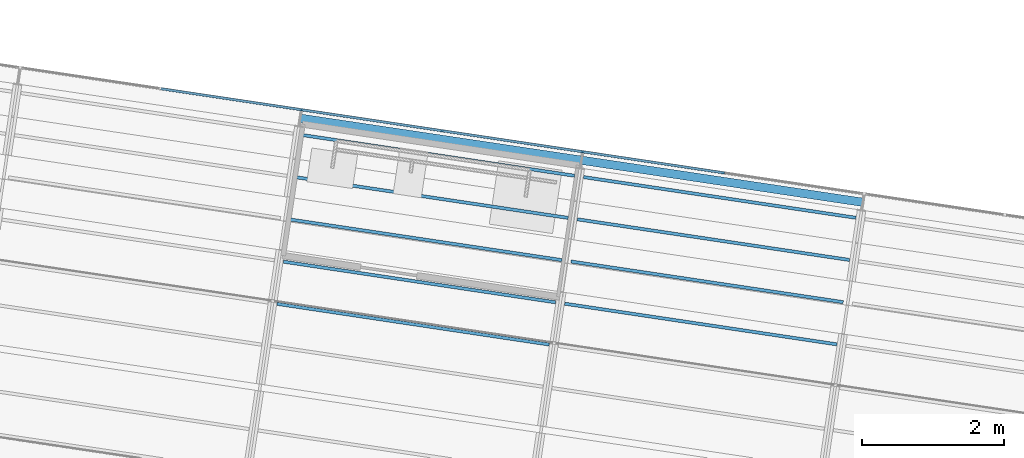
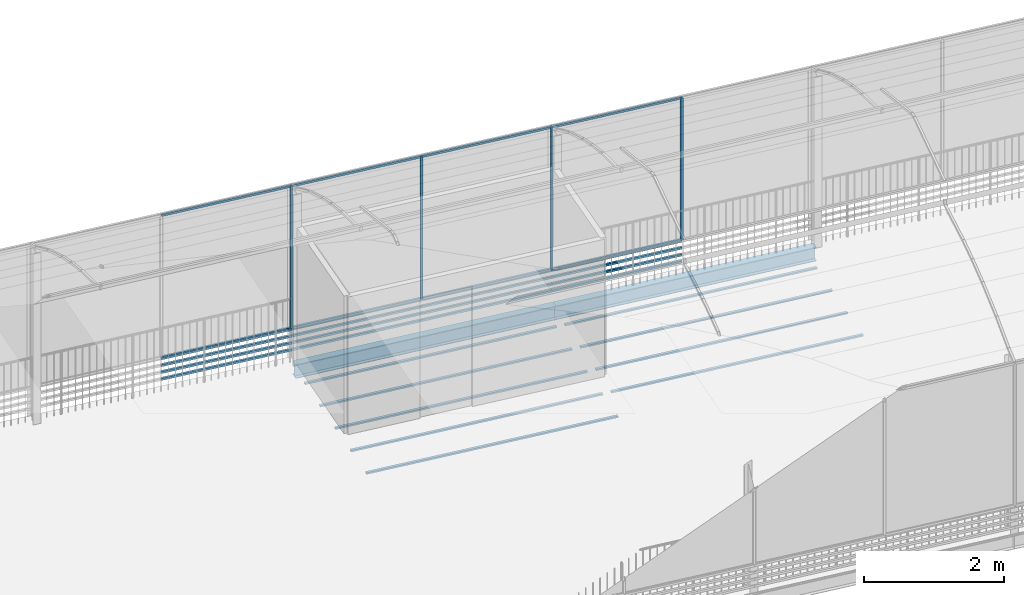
# One storey, part 9 of 34: 32 members, 11 beams.
"""IFC4 building model written with IfcOpenShell, lengths in metres."""

from ifc_helpers import new_model, si_unit, direction, frame, origin_with_axes, place, context, subcontext, project, spatial, polyline, rectangle, i_section, outline, extrude, material, material_profile, profile_set, profile_usage, type_object, element, save


model = new_model("IFC4")

# Units and contexts
model_context = context("Model", 3, precision=1e-05, world=origin_with_axes(), true_north=direction((0.0, 1.0)))
body_context = subcontext(model_context, "Body", "Model", "MODEL_VIEW")
ifc_project = project(units=[si_unit("VOLUMEUNIT", "CUBIC_METRE"), si_unit("LENGTHUNIT", "METRE"), si_unit("AREAUNIT", "SQUARE_METRE")], contexts=[model_context])

# Site, building, storey
site_placement = place(None, origin_with_axes())
site = spatial("IfcSite", under=ifc_project, at=site_placement, Name="Lares · Rua das Mercês · artigo 4771")
building_placement = place(site_placement, frame((12.0, 10.2, 13.9), z_axis=(0.0, 0.0, 1.0), x_axis=(0.989015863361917, -0.147809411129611, 0.0)))
building = spatial("IfcBuilding", under=site, at=building_placement, Name="Casa Sobreposta")
storey_placement = place(building_placement, frame((0.0, 0.0, 3.24), z_axis=(0.0, 0.0, 1.0), x_axis=(1.0, 0.0, 0.0)))
storey = spatial("IfcBuildingStorey", under=building, at=storey_placement, Name="01 · Jardim de inverno", Elevation=17.14)

# Beams
ifc_material_1 = material(Name="Aço pintado / Stahl lackiert", Category="steel")
ifc_material_profile_1 = material_profile(ifc_material_1, i_section(OverallWidth=0.12, OverallDepth=0.24, WebThickness=0.0062, FlangeThickness=0.0098))
ifc_profile_set_1 = profile_set([ifc_material_profile_1], Name="IPE240")
ifc_profile_usage_1 = profile_usage(ifc_profile_set_1)
beam_type = type_object("IfcBeamType", Name="IPE240 / steel", PredefinedType="NOTDEFINED", material=ifc_profile_set_1)
beam_1_placement = place(storey_placement, frame((8.0, 6.28, -0.152), z_axis=(1.0, 0.0, 0.0), x_axis=(0.0, -1.0, 0.0)))
element("IfcBeam", 1, at=beam_1_placement, inside=storey, type_object=beam_type, material=ifc_profile_usage_1, Name="Viga longitudinal 8 / 6.28", context=body_context, shape_type="SweptSolid", body=[
    extrude(i_section(OverallWidth=0.12, OverallDepth=0.24, WebThickness=0.0062, FlangeThickness=0.0098), origin_with_axes(), (0.0, 0.0, 1.0), 4.0),
])
ifc_profile_usage_2 = profile_usage(ifc_profile_set_1)
beam_2_placement = place(storey_placement, frame((12.0, 6.28, -0.152), z_axis=(1.0, 0.0, 0.0), x_axis=(0.0, -1.0, 0.0)))
element("IfcBeam", 2, at=beam_2_placement, inside=storey, type_object=beam_type, material=ifc_profile_usage_2, Name="Viga longitudinal 12 / 6.28", context=body_context, shape_type="SweptSolid", body=[
    extrude(i_section(OverallWidth=0.12, OverallDepth=0.24, WebThickness=0.0062, FlangeThickness=0.0098), origin_with_axes(), (0.0, 0.0, 1.0), 4.0),
])

# Members
ifc_material_profile_2 = material_profile(ifc_material_1, rectangle(XDim=0.035, YDim=0.035))
ifc_profile_set_2 = profile_set([ifc_material_profile_2], Name="R0.035")
ifc_profile_usage_3 = profile_usage(ifc_profile_set_2)
member_type = type_object("IfcMemberType", Name="R0.035 / steel", PredefinedType="NOTDEFINED", material=ifc_profile_set_2)
member_1_placement = place(storey_placement, frame((8.0, 6.4, 0.5), z_axis=(0.0, 0.0, 1.0), x_axis=(1.0, 0.0, 0.0)))
element("IfcMember", 3, at=member_1_placement, inside=storey, type_object=member_type, material=ifc_profile_usage_3, context=body_context, shape_type="SweptSolid", body=[
    extrude(rectangle(XDim=0.035, YDim=0.035), origin_with_axes(), (0.0, 0.0, 1.0), 2.48),
])
ifc_profile_usage_4 = profile_usage(ifc_profile_set_2)
member_2_placement = place(storey_placement, frame((6.0, 6.4, 0.5), z_axis=(1.0, 0.0, 0.0), x_axis=(0.0, -1.0, 0.0)))
element("IfcMember", 4, at=member_2_placement, inside=storey, type_object=member_type, material=ifc_profile_usage_4, Name="Estufa norte 4 · travessa", context=body_context, shape_type="SweptSolid", body=[
    extrude(rectangle(XDim=0.035, YDim=0.035), origin_with_axes(), (0.0, 0.0, 1.0), 2.0),
])
ifc_profile_usage_5 = profile_usage(ifc_profile_set_2)
member_3_placement = place(storey_placement, frame((6.0, 6.4, 2.98), z_axis=(1.0, 0.0, 0.0), x_axis=(0.0, -1.0, 0.0)))
element("IfcMember", 5, at=member_3_placement, inside=storey, type_object=member_type, material=ifc_profile_usage_5, Name="Estufa norte 4 · travessa", context=body_context, shape_type="SweptSolid", body=[
    extrude(rectangle(XDim=0.035, YDim=0.035), origin_with_axes(), (0.0, 0.0, 1.0), 2.0),
])
ifc_profile_usage_6 = profile_usage(ifc_profile_set_2)
member_4_placement = place(storey_placement, frame((6.0, 6.4, 0.12), z_axis=(1.0, 0.0, 0.0), x_axis=(0.0, -1.0, 0.0)))
element("IfcMember", 6, at=member_4_placement, inside=storey, type_object=member_type, material=ifc_profile_usage_6, Name="Entrada de ar norte 4", context=body_context, shape_type="SweptSolid", body=[
    extrude(rectangle(XDim=0.035, YDim=0.035), origin_with_axes(), (0.0, 0.0, 1.0), 2.0),
])
ifc_profile_usage_7 = profile_usage(ifc_profile_set_2)
member_5_placement = place(storey_placement, frame((6.0, 6.4, 0.24), z_axis=(1.0, 0.0, 0.0), x_axis=(0.0, -1.0, 0.0)))
element("IfcMember", 7, at=member_5_placement, inside=storey, type_object=member_type, material=ifc_profile_usage_7, Name="Entrada de ar norte 4", context=body_context, shape_type="SweptSolid", body=[
    extrude(rectangle(XDim=0.035, YDim=0.035), origin_with_axes(), (0.0, 0.0, 1.0), 2.0),
])
ifc_profile_usage_8 = profile_usage(ifc_profile_set_2)
member_6_placement = place(storey_placement, frame((6.0, 6.4, 0.36), z_axis=(1.0, 0.0, 0.0), x_axis=(0.0, -1.0, 0.0)))
element("IfcMember", 8, at=member_6_placement, inside=storey, type_object=member_type, material=ifc_profile_usage_8, Name="Entrada de ar norte 4", context=body_context, shape_type="SweptSolid", body=[
    extrude(rectangle(XDim=0.035, YDim=0.035), origin_with_axes(), (0.0, 0.0, 1.0), 2.0),
])
ifc_profile_usage_9 = profile_usage(ifc_profile_set_2)
member_7_placement = place(storey_placement, frame((6.0, 6.4, 0.48), z_axis=(1.0, 0.0, 0.0), x_axis=(0.0, -1.0, 0.0)))
element("IfcMember", 9, at=member_7_placement, inside=storey, type_object=member_type, material=ifc_profile_usage_9, Name="Entrada de ar norte 4", context=body_context, shape_type="SweptSolid", body=[
    extrude(rectangle(XDim=0.035, YDim=0.035), origin_with_axes(), (0.0, 0.0, 1.0), 2.0),
])
ifc_profile_usage_10 = profile_usage(ifc_profile_set_2)
member_8_placement = place(storey_placement, frame((8.0, 6.4, 0.5), z_axis=(0.0, 0.0, 1.0), x_axis=(1.0, 0.0, 0.0)))
element("IfcMember", 10, at=member_8_placement, inside=storey, type_object=member_type, material=ifc_profile_usage_10, context=body_context, shape_type="SweptSolid", body=[
    extrude(rectangle(XDim=0.035, YDim=0.035), origin_with_axes(), (0.0, 0.0, 1.0), 2.48),
])
ifc_profile_usage_11 = profile_usage(ifc_profile_set_2)
member_9_placement = place(storey_placement, frame((10.0, 6.4, 0.5), z_axis=(0.0, 0.0, 1.0), x_axis=(1.0, 0.0, 0.0)))
element("IfcMember", 11, at=member_9_placement, inside=storey, type_object=member_type, material=ifc_profile_usage_11, context=body_context, shape_type="SweptSolid", body=[
    extrude(rectangle(XDim=0.035, YDim=0.035), origin_with_axes(), (0.0, 0.0, 1.0), 2.48),
])
ifc_profile_usage_12 = profile_usage(ifc_profile_set_2)
member_10_placement = place(storey_placement, frame((8.0, 6.4, 0.5), z_axis=(1.0, 0.0, 0.0), x_axis=(0.0, -1.0, 0.0)))
element("IfcMember", 12, at=member_10_placement, inside=storey, type_object=member_type, material=ifc_profile_usage_12, Name="Estufa norte 5 · travessa", context=body_context, shape_type="SweptSolid", body=[
    extrude(rectangle(XDim=0.035, YDim=0.035), origin_with_axes(), (0.0, 0.0, 1.0), 2.0),
])
ifc_profile_usage_13 = profile_usage(ifc_profile_set_2)
member_11_placement = place(storey_placement, frame((8.0, 6.4, 2.98), z_axis=(1.0, 0.0, 0.0), x_axis=(0.0, -1.0, 0.0)))
element("IfcMember", 13, at=member_11_placement, inside=storey, type_object=member_type, material=ifc_profile_usage_13, Name="Estufa norte 5 · travessa", context=body_context, shape_type="SweptSolid", body=[
    extrude(rectangle(XDim=0.035, YDim=0.035), origin_with_axes(), (0.0, 0.0, 1.0), 2.0),
])
ifc_profile_usage_14 = profile_usage(ifc_profile_set_2)
member_12_placement = place(storey_placement, frame((8.0, 6.4, 0.12), z_axis=(1.0, 0.0, 0.0), x_axis=(0.0, -1.0, 0.0)))
element("IfcMember", 14, at=member_12_placement, inside=storey, type_object=member_type, material=ifc_profile_usage_14, Name="Entrada de ar norte 5", context=body_context, shape_type="SweptSolid", body=[
    extrude(rectangle(XDim=0.035, YDim=0.035), origin_with_axes(), (0.0, 0.0, 1.0), 2.0),
])
ifc_profile_usage_15 = profile_usage(ifc_profile_set_2)
member_13_placement = place(storey_placement, frame((8.0, 6.4, 0.24), z_axis=(1.0, 0.0, 0.0), x_axis=(0.0, -1.0, 0.0)))
element("IfcMember", 15, at=member_13_placement, inside=storey, type_object=member_type, material=ifc_profile_usage_15, Name="Entrada de ar norte 5", context=body_context, shape_type="SweptSolid", body=[
    extrude(rectangle(XDim=0.035, YDim=0.035), origin_with_axes(), (0.0, 0.0, 1.0), 2.0),
])
ifc_profile_usage_16 = profile_usage(ifc_profile_set_2)
member_14_placement = place(storey_placement, frame((8.0, 6.4, 0.36), z_axis=(1.0, 0.0, 0.0), x_axis=(0.0, -1.0, 0.0)))
element("IfcMember", 16, at=member_14_placement, inside=storey, type_object=member_type, material=ifc_profile_usage_16, Name="Entrada de ar norte 5", context=body_context, shape_type="SweptSolid", body=[
    extrude(rectangle(XDim=0.035, YDim=0.035), origin_with_axes(), (0.0, 0.0, 1.0), 2.0),
])
ifc_profile_usage_17 = profile_usage(ifc_profile_set_2)
member_15_placement = place(storey_placement, frame((8.0, 6.4, 0.48), z_axis=(1.0, 0.0, 0.0), x_axis=(0.0, -1.0, 0.0)))
element("IfcMember", 17, at=member_15_placement, inside=storey, type_object=member_type, material=ifc_profile_usage_17, Name="Entrada de ar norte 5", context=body_context, shape_type="SweptSolid", body=[
    extrude(rectangle(XDim=0.035, YDim=0.035), origin_with_axes(), (0.0, 0.0, 1.0), 2.0),
])
ifc_profile_usage_18 = profile_usage(ifc_profile_set_2)
member_16_placement = place(storey_placement, frame((10.0, 6.4, 0.5), z_axis=(0.0, 0.0, 1.0), x_axis=(1.0, 0.0, 0.0)))
element("IfcMember", 18, at=member_16_placement, inside=storey, type_object=member_type, material=ifc_profile_usage_18, context=body_context, shape_type="SweptSolid", body=[
    extrude(rectangle(XDim=0.035, YDim=0.035), origin_with_axes(), (0.0, 0.0, 1.0), 2.48),
])
ifc_profile_usage_19 = profile_usage(ifc_profile_set_2)
member_17_placement = place(storey_placement, frame((12.0, 6.4, 0.5), z_axis=(0.0, 0.0, 1.0), x_axis=(1.0, 0.0, 0.0)))
element("IfcMember", 19, at=member_17_placement, inside=storey, type_object=member_type, material=ifc_profile_usage_19, context=body_context, shape_type="SweptSolid", body=[
    extrude(rectangle(XDim=0.035, YDim=0.035), origin_with_axes(), (0.0, 0.0, 1.0), 2.48),
])
ifc_profile_usage_20 = profile_usage(ifc_profile_set_2)
member_18_placement = place(storey_placement, frame((10.0, 6.4, 0.5), z_axis=(1.0, 0.0, 0.0), x_axis=(0.0, -1.0, 0.0)))
element("IfcMember", 20, at=member_18_placement, inside=storey, type_object=member_type, material=ifc_profile_usage_20, Name="Estufa norte 6 · travessa", context=body_context, shape_type="SweptSolid", body=[
    extrude(rectangle(XDim=0.035, YDim=0.035), origin_with_axes(), (0.0, 0.0, 1.0), 2.0),
])
ifc_profile_usage_21 = profile_usage(ifc_profile_set_2)
member_19_placement = place(storey_placement, frame((10.0, 6.4, 2.98), z_axis=(1.0, 0.0, 0.0), x_axis=(0.0, -1.0, 0.0)))
element("IfcMember", 21, at=member_19_placement, inside=storey, type_object=member_type, material=ifc_profile_usage_21, Name="Estufa norte 6 · travessa", context=body_context, shape_type="SweptSolid", body=[
    extrude(rectangle(XDim=0.035, YDim=0.035), origin_with_axes(), (0.0, 0.0, 1.0), 2.0),
])
ifc_profile_usage_22 = profile_usage(ifc_profile_set_2)
member_20_placement = place(storey_placement, frame((10.0, 6.4, 0.12), z_axis=(1.0, 0.0, 0.0), x_axis=(0.0, -1.0, 0.0)))
element("IfcMember", 22, at=member_20_placement, inside=storey, type_object=member_type, material=ifc_profile_usage_22, Name="Entrada de ar norte 6", context=body_context, shape_type="SweptSolid", body=[
    extrude(rectangle(XDim=0.035, YDim=0.035), origin_with_axes(), (0.0, 0.0, 1.0), 2.0),
])
ifc_profile_usage_23 = profile_usage(ifc_profile_set_2)
member_21_placement = place(storey_placement, frame((10.0, 6.4, 0.24), z_axis=(1.0, 0.0, 0.0), x_axis=(0.0, -1.0, 0.0)))
element("IfcMember", 23, at=member_21_placement, inside=storey, type_object=member_type, material=ifc_profile_usage_23, Name="Entrada de ar norte 6", context=body_context, shape_type="SweptSolid", body=[
    extrude(rectangle(XDim=0.035, YDim=0.035), origin_with_axes(), (0.0, 0.0, 1.0), 2.0),
])
ifc_profile_usage_24 = profile_usage(ifc_profile_set_2)
member_22_placement = place(storey_placement, frame((10.0, 6.4, 0.36), z_axis=(1.0, 0.0, 0.0), x_axis=(0.0, -1.0, 0.0)))
element("IfcMember", 24, at=member_22_placement, inside=storey, type_object=member_type, material=ifc_profile_usage_24, Name="Entrada de ar norte 6", context=body_context, shape_type="SweptSolid", body=[
    extrude(rectangle(XDim=0.035, YDim=0.035), origin_with_axes(), (0.0, 0.0, 1.0), 2.0),
])
ifc_profile_usage_25 = profile_usage(ifc_profile_set_2)
member_23_placement = place(storey_placement, frame((10.0, 6.4, 0.48), z_axis=(1.0, 0.0, 0.0), x_axis=(0.0, -1.0, 0.0)))
element("IfcMember", 25, at=member_23_placement, inside=storey, type_object=member_type, material=ifc_profile_usage_25, Name="Entrada de ar norte 6", context=body_context, shape_type="SweptSolid", body=[
    extrude(rectangle(XDim=0.035, YDim=0.035), origin_with_axes(), (0.0, 0.0, 1.0), 2.0),
])
ifc_profile_usage_26 = profile_usage(ifc_profile_set_2)
member_24_placement = place(storey_placement, frame((12.0, 6.4, 0.5), z_axis=(0.0, 0.0, 1.0), x_axis=(1.0, 0.0, 0.0)))
element("IfcMember", 26, at=member_24_placement, inside=storey, type_object=member_type, material=ifc_profile_usage_26, context=body_context, shape_type="SweptSolid", body=[
    extrude(rectangle(XDim=0.035, YDim=0.035), origin_with_axes(), (0.0, 0.0, 1.0), 2.48),
])
ifc_profile_usage_27 = profile_usage(ifc_profile_set_2)
member_25_placement = place(storey_placement, frame((14.0, 6.4, 0.5), z_axis=(0.0, 0.0, 1.0), x_axis=(1.0, 0.0, 0.0)))
element("IfcMember", 27, at=member_25_placement, inside=storey, type_object=member_type, material=ifc_profile_usage_27, context=body_context, shape_type="SweptSolid", body=[
    extrude(rectangle(XDim=0.035, YDim=0.035), origin_with_axes(), (0.0, 0.0, 1.0), 2.48),
])
ifc_profile_usage_28 = profile_usage(ifc_profile_set_2)
member_26_placement = place(storey_placement, frame((12.0, 6.4, 0.5), z_axis=(1.0, 0.0, 0.0), x_axis=(0.0, -1.0, 0.0)))
element("IfcMember", 28, at=member_26_placement, inside=storey, type_object=member_type, material=ifc_profile_usage_28, Name="Estufa norte 7 · travessa", context=body_context, shape_type="SweptSolid", body=[
    extrude(rectangle(XDim=0.035, YDim=0.035), origin_with_axes(), (0.0, 0.0, 1.0), 2.0),
])
ifc_profile_usage_29 = profile_usage(ifc_profile_set_2)
member_27_placement = place(storey_placement, frame((12.0, 6.4, 2.98), z_axis=(1.0, 0.0, 0.0), x_axis=(0.0, -1.0, 0.0)))
element("IfcMember", 29, at=member_27_placement, inside=storey, type_object=member_type, material=ifc_profile_usage_29, Name="Estufa norte 7 · travessa", context=body_context, shape_type="SweptSolid", body=[
    extrude(rectangle(XDim=0.035, YDim=0.035), origin_with_axes(), (0.0, 0.0, 1.0), 2.0),
])
ifc_profile_usage_30 = profile_usage(ifc_profile_set_2)
member_28_placement = place(storey_placement, frame((12.0, 6.4, 0.12), z_axis=(1.0, 0.0, 0.0), x_axis=(0.0, -1.0, 0.0)))
element("IfcMember", 30, at=member_28_placement, inside=storey, type_object=member_type, material=ifc_profile_usage_30, Name="Entrada de ar norte 7", context=body_context, shape_type="SweptSolid", body=[
    extrude(rectangle(XDim=0.035, YDim=0.035), origin_with_axes(), (0.0, 0.0, 1.0), 2.0),
])
ifc_profile_usage_31 = profile_usage(ifc_profile_set_2)
member_29_placement = place(storey_placement, frame((12.0, 6.4, 0.24), z_axis=(1.0, 0.0, 0.0), x_axis=(0.0, -1.0, 0.0)))
element("IfcMember", 31, at=member_29_placement, inside=storey, type_object=member_type, material=ifc_profile_usage_31, Name="Entrada de ar norte 7", context=body_context, shape_type="SweptSolid", body=[
    extrude(rectangle(XDim=0.035, YDim=0.035), origin_with_axes(), (0.0, 0.0, 1.0), 2.0),
])
ifc_profile_usage_32 = profile_usage(ifc_profile_set_2)
member_30_placement = place(storey_placement, frame((12.0, 6.4, 0.36), z_axis=(1.0, 0.0, 0.0), x_axis=(0.0, -1.0, 0.0)))
element("IfcMember", 32, at=member_30_placement, inside=storey, type_object=member_type, material=ifc_profile_usage_32, Name="Entrada de ar norte 7", context=body_context, shape_type="SweptSolid", body=[
    extrude(rectangle(XDim=0.035, YDim=0.035), origin_with_axes(), (0.0, 0.0, 1.0), 2.0),
])
ifc_profile_usage_33 = profile_usage(ifc_profile_set_2)
member_31_placement = place(storey_placement, frame((12.0, 6.4, 0.48), z_axis=(1.0, 0.0, 0.0), x_axis=(0.0, -1.0, 0.0)))
element("IfcMember", 33, at=member_31_placement, inside=storey, type_object=member_type, material=ifc_profile_usage_33, Name="Entrada de ar norte 7", context=body_context, shape_type="SweptSolid", body=[
    extrude(rectangle(XDim=0.035, YDim=0.035), origin_with_axes(), (0.0, 0.0, 1.0), 2.0),
])
ifc_profile_usage_34 = profile_usage(ifc_profile_set_2)
member_32_placement = place(storey_placement, frame((14.0, 6.4, 0.5), z_axis=(0.0, 0.0, 1.0), x_axis=(1.0, 0.0, 0.0)))
element("IfcMember", 34, at=member_32_placement, inside=storey, type_object=member_type, material=ifc_profile_usage_34, context=body_context, shape_type="SweptSolid", body=[
    extrude(rectangle(XDim=0.035, YDim=0.035), origin_with_axes(), (0.0, 0.0, 1.0), 2.48),
])

# Beams
ifc_material_2 = material(Name="Madeira / Bauholz", Category="wood")
ifc_material_profile_3 = material_profile(ifc_material_2, outline(polyline([(0.022225, -0.12), (0.022225, -0.092), (-0.022225, -0.092), (-0.022225, -0.12), (0.022225, -0.12)])))
ifc_material_3 = material(Name="OSB", Category="wood")
ifc_material_profile_4 = material_profile(ifc_material_3, outline(polyline([(0.0047625, -0.092), (0.0047625, 0.092), (-0.0047625, 0.092), (-0.0047625, -0.092), (0.0047625, -0.092)])))
ifc_material_profile_5 = material_profile(ifc_material_2, outline(polyline([(0.022225, 0.092), (0.022225, 0.12), (-0.022225, 0.12), (-0.022225, 0.092), (0.022225, 0.092)])))
ifc_profile_set_3 = profile_set([ifc_material_profile_3, ifc_material_profile_4, ifc_material_profile_5], Name="TJI240 · madeira / OSB")
ifc_profile_usage_35 = profile_usage(ifc_profile_set_3)
beam_3_placement = place(storey_placement, frame((8.065, 3.65, -0.152), z_axis=(1.0, 0.0, 0.0), x_axis=(0.0, 1.0, 0.0)))
element("IfcBeam", 35, at=beam_3_placement, inside=storey, material=ifc_profile_usage_35, Name="TJI240 · 8.065 / 3.65", context=body_context, shape_type="SweptSolid", body=[
    extrude(outline(polyline([(0.022225, -0.12), (0.022225, -0.092), (-0.022225, -0.092), (-0.022225, -0.12), (0.022225, -0.12)])), origin_with_axes(), (0.0, 0.0, 1.0), 3.87),
    extrude(outline(polyline([(0.022225, -0.12), (0.022225, -0.092), (-0.022225, -0.092), (-0.022225, -0.12), (0.022225, -0.12)])), origin_with_axes(), (0.0, 0.0, 1.0), 3.87),
    extrude(outline(polyline([(0.022225, -0.12), (0.022225, -0.092), (-0.022225, -0.092), (-0.022225, -0.12), (0.022225, -0.12)])), origin_with_axes(), (0.0, 0.0, 1.0), 3.87),
])
ifc_material_profile_6 = material_profile(ifc_material_2, outline(polyline([(0.022225, -0.12), (0.022225, -0.092), (-0.022225, -0.092), (-0.022225, -0.12), (0.022225, -0.12)])))
ifc_material_profile_7 = material_profile(ifc_material_3, outline(polyline([(0.0047625, -0.092), (0.0047625, 0.092), (-0.0047625, 0.092), (-0.0047625, -0.092), (0.0047625, -0.092)])))
ifc_material_profile_8 = material_profile(ifc_material_2, outline(polyline([(0.022225, 0.092), (0.022225, 0.12), (-0.022225, 0.12), (-0.022225, 0.092), (0.022225, 0.092)])))
ifc_profile_set_4 = profile_set([ifc_material_profile_6, ifc_material_profile_7, ifc_material_profile_8], Name="TJI240 · madeira / OSB")
ifc_profile_usage_36 = profile_usage(ifc_profile_set_4)
beam_4_placement = place(storey_placement, frame((8.065, 4.25, -0.152), z_axis=(1.0, 0.0, 0.0), x_axis=(0.0, 1.0, 0.0)))
element("IfcBeam", 36, at=beam_4_placement, inside=storey, material=ifc_profile_usage_36, Name="TJI240 · 8.065 / 4.25", context=body_context, shape_type="SweptSolid", body=[
    extrude(outline(polyline([(0.022225, -0.12), (0.022225, -0.092), (-0.022225, -0.092), (-0.022225, -0.12), (0.022225, -0.12)])), origin_with_axes(), (0.0, 0.0, 1.0), 3.87),
    extrude(outline(polyline([(0.022225, -0.12), (0.022225, -0.092), (-0.022225, -0.092), (-0.022225, -0.12), (0.022225, -0.12)])), origin_with_axes(), (0.0, 0.0, 1.0), 3.87),
    extrude(outline(polyline([(0.022225, -0.12), (0.022225, -0.092), (-0.022225, -0.092), (-0.022225, -0.12), (0.022225, -0.12)])), origin_with_axes(), (0.0, 0.0, 1.0), 3.87),
])
ifc_material_profile_9 = material_profile(ifc_material_2, outline(polyline([(0.022225, -0.12), (0.022225, -0.092), (-0.022225, -0.092), (-0.022225, -0.12), (0.022225, -0.12)])))
ifc_material_profile_10 = material_profile(ifc_material_3, outline(polyline([(0.0047625, -0.092), (0.0047625, 0.092), (-0.0047625, 0.092), (-0.0047625, -0.092), (0.0047625, -0.092)])))
ifc_material_profile_11 = material_profile(ifc_material_2, outline(polyline([(0.022225, 0.092), (0.022225, 0.12), (-0.022225, 0.12), (-0.022225, 0.092), (0.022225, 0.092)])))
ifc_profile_set_5 = profile_set([ifc_material_profile_9, ifc_material_profile_10, ifc_material_profile_11], Name="TJI240 · madeira / OSB")
ifc_profile_usage_37 = profile_usage(ifc_profile_set_5)
beam_5_placement = place(storey_placement, frame((12.065, 4.25, -0.152), z_axis=(1.0, 0.0, 0.0), x_axis=(0.0, 1.0, 0.0)))
element("IfcBeam", 37, at=beam_5_placement, inside=storey, material=ifc_profile_usage_37, Name="TJI240 · 12.065 / 4.25", context=body_context, shape_type="SweptSolid", body=[
    extrude(outline(polyline([(0.022225, -0.12), (0.022225, -0.092), (-0.022225, -0.092), (-0.022225, -0.12), (0.022225, -0.12)])), origin_with_axes(), (0.0, 0.0, 1.0), 3.87),
    extrude(outline(polyline([(0.022225, -0.12), (0.022225, -0.092), (-0.022225, -0.092), (-0.022225, -0.12), (0.022225, -0.12)])), origin_with_axes(), (0.0, 0.0, 1.0), 3.87),
    extrude(outline(polyline([(0.022225, -0.12), (0.022225, -0.092), (-0.022225, -0.092), (-0.022225, -0.12), (0.022225, -0.12)])), origin_with_axes(), (0.0, 0.0, 1.0), 3.87),
])
ifc_material_profile_12 = material_profile(ifc_material_2, outline(polyline([(0.022225, -0.12), (0.022225, -0.092), (-0.022225, -0.092), (-0.022225, -0.12), (0.022225, -0.12)])))
ifc_material_profile_13 = material_profile(ifc_material_3, outline(polyline([(0.0047625, -0.092), (0.0047625, 0.092), (-0.0047625, 0.092), (-0.0047625, -0.092), (0.0047625, -0.092)])))
ifc_material_profile_14 = material_profile(ifc_material_2, outline(polyline([(0.022225, 0.092), (0.022225, 0.12), (-0.022225, 0.12), (-0.022225, 0.092), (0.022225, 0.092)])))
ifc_profile_set_6 = profile_set([ifc_material_profile_12, ifc_material_profile_13, ifc_material_profile_14], Name="TJI240 · madeira / OSB")
ifc_profile_usage_38 = profile_usage(ifc_profile_set_6)
beam_6_placement = place(storey_placement, frame((8.065, 4.85, -0.152), z_axis=(1.0, 0.0, 0.0), x_axis=(0.0, 1.0, 0.0)))
element("IfcBeam", 38, at=beam_6_placement, inside=storey, material=ifc_profile_usage_38, Name="TJI240 · 8.065 / 4.85", context=body_context, shape_type="SweptSolid", body=[
    extrude(outline(polyline([(0.022225, -0.12), (0.022225, -0.092), (-0.022225, -0.092), (-0.022225, -0.12), (0.022225, -0.12)])), origin_with_axes(), (0.0, 0.0, 1.0), 3.87),
    extrude(outline(polyline([(0.022225, -0.12), (0.022225, -0.092), (-0.022225, -0.092), (-0.022225, -0.12), (0.022225, -0.12)])), origin_with_axes(), (0.0, 0.0, 1.0), 3.87),
    extrude(outline(polyline([(0.022225, -0.12), (0.022225, -0.092), (-0.022225, -0.092), (-0.022225, -0.12), (0.022225, -0.12)])), origin_with_axes(), (0.0, 0.0, 1.0), 3.87),
])
ifc_material_profile_15 = material_profile(ifc_material_2, outline(polyline([(0.022225, -0.12), (0.022225, -0.092), (-0.022225, -0.092), (-0.022225, -0.12), (0.022225, -0.12)])))
ifc_material_profile_16 = material_profile(ifc_material_3, outline(polyline([(0.0047625, -0.092), (0.0047625, 0.092), (-0.0047625, 0.092), (-0.0047625, -0.092), (0.0047625, -0.092)])))
ifc_material_profile_17 = material_profile(ifc_material_2, outline(polyline([(0.022225, 0.092), (0.022225, 0.12), (-0.022225, 0.12), (-0.022225, 0.092), (0.022225, 0.092)])))
ifc_profile_set_7 = profile_set([ifc_material_profile_15, ifc_material_profile_16, ifc_material_profile_17], Name="TJI240 · madeira / OSB")
ifc_profile_usage_39 = profile_usage(ifc_profile_set_7)
beam_7_placement = place(storey_placement, frame((12.065, 4.85, -0.152), z_axis=(1.0, 0.0, 0.0), x_axis=(0.0, 1.0, 0.0)))
element("IfcBeam", 39, at=beam_7_placement, inside=storey, material=ifc_profile_usage_39, Name="TJI240 · 12.065 / 4.85", context=body_context, shape_type="SweptSolid", body=[
    extrude(outline(polyline([(0.022225, -0.12), (0.022225, -0.092), (-0.022225, -0.092), (-0.022225, -0.12), (0.022225, -0.12)])), origin_with_axes(), (0.0, 0.0, 1.0), 3.87),
    extrude(outline(polyline([(0.022225, -0.12), (0.022225, -0.092), (-0.022225, -0.092), (-0.022225, -0.12), (0.022225, -0.12)])), origin_with_axes(), (0.0, 0.0, 1.0), 3.87),
    extrude(outline(polyline([(0.022225, -0.12), (0.022225, -0.092), (-0.022225, -0.092), (-0.022225, -0.12), (0.022225, -0.12)])), origin_with_axes(), (0.0, 0.0, 1.0), 3.87),
])
ifc_material_profile_18 = material_profile(ifc_material_2, outline(polyline([(0.022225, -0.12), (0.022225, -0.092), (-0.022225, -0.092), (-0.022225, -0.12), (0.022225, -0.12)])))
ifc_material_profile_19 = material_profile(ifc_material_3, outline(polyline([(0.0047625, -0.092), (0.0047625, 0.092), (-0.0047625, 0.092), (-0.0047625, -0.092), (0.0047625, -0.092)])))
ifc_material_profile_20 = material_profile(ifc_material_2, outline(polyline([(0.022225, 0.092), (0.022225, 0.12), (-0.022225, 0.12), (-0.022225, 0.092), (0.022225, 0.092)])))
ifc_profile_set_8 = profile_set([ifc_material_profile_18, ifc_material_profile_19, ifc_material_profile_20], Name="TJI240 · madeira / OSB")
ifc_profile_usage_40 = profile_usage(ifc_profile_set_8)
beam_8_placement = place(storey_placement, frame((8.065, 5.45, -0.152), z_axis=(1.0, 0.0, 0.0), x_axis=(0.0, 1.0, 0.0)))
element("IfcBeam", 40, at=beam_8_placement, inside=storey, material=ifc_profile_usage_40, Name="TJI240 · 8.065 / 5.45", context=body_context, shape_type="SweptSolid", body=[
    extrude(outline(polyline([(0.022225, -0.12), (0.022225, -0.092), (-0.022225, -0.092), (-0.022225, -0.12), (0.022225, -0.12)])), origin_with_axes(), (0.0, 0.0, 1.0), 3.87),
    extrude(outline(polyline([(0.022225, -0.12), (0.022225, -0.092), (-0.022225, -0.092), (-0.022225, -0.12), (0.022225, -0.12)])), origin_with_axes(), (0.0, 0.0, 1.0), 3.87),
    extrude(outline(polyline([(0.022225, -0.12), (0.022225, -0.092), (-0.022225, -0.092), (-0.022225, -0.12), (0.022225, -0.12)])), origin_with_axes(), (0.0, 0.0, 1.0), 3.87),
])
ifc_material_profile_21 = material_profile(ifc_material_2, outline(polyline([(0.022225, -0.12), (0.022225, -0.092), (-0.022225, -0.092), (-0.022225, -0.12), (0.022225, -0.12)])))
ifc_material_profile_22 = material_profile(ifc_material_3, outline(polyline([(0.0047625, -0.092), (0.0047625, 0.092), (-0.0047625, 0.092), (-0.0047625, -0.092), (0.0047625, -0.092)])))
ifc_material_profile_23 = material_profile(ifc_material_2, outline(polyline([(0.022225, 0.092), (0.022225, 0.12), (-0.022225, 0.12), (-0.022225, 0.092), (0.022225, 0.092)])))
ifc_profile_set_9 = profile_set([ifc_material_profile_21, ifc_material_profile_22, ifc_material_profile_23], Name="TJI240 · madeira / OSB")
ifc_profile_usage_41 = profile_usage(ifc_profile_set_9)
beam_9_placement = place(storey_placement, frame((12.065, 5.45, -0.152), z_axis=(1.0, 0.0, 0.0), x_axis=(0.0, 1.0, 0.0)))
element("IfcBeam", 41, at=beam_9_placement, inside=storey, material=ifc_profile_usage_41, Name="TJI240 · 12.065 / 5.45", context=body_context, shape_type="SweptSolid", body=[
    extrude(outline(polyline([(0.022225, -0.12), (0.022225, -0.092), (-0.022225, -0.092), (-0.022225, -0.12), (0.022225, -0.12)])), origin_with_axes(), (0.0, 0.0, 1.0), 3.87),
    extrude(outline(polyline([(0.022225, -0.12), (0.022225, -0.092), (-0.022225, -0.092), (-0.022225, -0.12), (0.022225, -0.12)])), origin_with_axes(), (0.0, 0.0, 1.0), 3.87),
    extrude(outline(polyline([(0.022225, -0.12), (0.022225, -0.092), (-0.022225, -0.092), (-0.022225, -0.12), (0.022225, -0.12)])), origin_with_axes(), (0.0, 0.0, 1.0), 3.87),
])
ifc_material_profile_24 = material_profile(ifc_material_2, outline(polyline([(0.022225, -0.12), (0.022225, -0.092), (-0.022225, -0.092), (-0.022225, -0.12), (0.022225, -0.12)])))
ifc_material_profile_25 = material_profile(ifc_material_3, outline(polyline([(0.0047625, -0.092), (0.0047625, 0.092), (-0.0047625, 0.092), (-0.0047625, -0.092), (0.0047625, -0.092)])))
ifc_material_profile_26 = material_profile(ifc_material_2, outline(polyline([(0.022225, 0.092), (0.022225, 0.12), (-0.022225, 0.12), (-0.022225, 0.092), (0.022225, 0.092)])))
ifc_profile_set_10 = profile_set([ifc_material_profile_24, ifc_material_profile_25, ifc_material_profile_26], Name="TJI240 · madeira / OSB")
ifc_profile_usage_42 = profile_usage(ifc_profile_set_10)
beam_10_placement = place(storey_placement, frame((8.065, 6.05, -0.152), z_axis=(1.0, 0.0, 0.0), x_axis=(0.0, 1.0, 0.0)))
element("IfcBeam", 42, at=beam_10_placement, inside=storey, material=ifc_profile_usage_42, Name="TJI240 · 8.065 / 6.05", context=body_context, shape_type="SweptSolid", body=[
    extrude(outline(polyline([(0.022225, -0.12), (0.022225, -0.092), (-0.022225, -0.092), (-0.022225, -0.12), (0.022225, -0.12)])), origin_with_axes(), (0.0, 0.0, 1.0), 3.87),
    extrude(outline(polyline([(0.022225, -0.12), (0.022225, -0.092), (-0.022225, -0.092), (-0.022225, -0.12), (0.022225, -0.12)])), origin_with_axes(), (0.0, 0.0, 1.0), 3.87),
    extrude(outline(polyline([(0.022225, -0.12), (0.022225, -0.092), (-0.022225, -0.092), (-0.022225, -0.12), (0.022225, -0.12)])), origin_with_axes(), (0.0, 0.0, 1.0), 3.87),
])
ifc_material_profile_27 = material_profile(ifc_material_2, outline(polyline([(0.022225, -0.12), (0.022225, -0.092), (-0.022225, -0.092), (-0.022225, -0.12), (0.022225, -0.12)])))
ifc_material_profile_28 = material_profile(ifc_material_3, outline(polyline([(0.0047625, -0.092), (0.0047625, 0.092), (-0.0047625, 0.092), (-0.0047625, -0.092), (0.0047625, -0.092)])))
ifc_material_profile_29 = material_profile(ifc_material_2, outline(polyline([(0.022225, 0.092), (0.022225, 0.12), (-0.022225, 0.12), (-0.022225, 0.092), (0.022225, 0.092)])))
ifc_profile_set_11 = profile_set([ifc_material_profile_27, ifc_material_profile_28, ifc_material_profile_29], Name="TJI240 · madeira / OSB")
ifc_profile_usage_43 = profile_usage(ifc_profile_set_11)
beam_11_placement = place(storey_placement, frame((12.065, 6.05, -0.152), z_axis=(1.0, 0.0, 0.0), x_axis=(0.0, 1.0, 0.0)))
element("IfcBeam", 43, at=beam_11_placement, inside=storey, material=ifc_profile_usage_43, Name="TJI240 · 12.065 / 6.05", context=body_context, shape_type="SweptSolid", body=[
    extrude(outline(polyline([(0.022225, -0.12), (0.022225, -0.092), (-0.022225, -0.092), (-0.022225, -0.12), (0.022225, -0.12)])), origin_with_axes(), (0.0, 0.0, 1.0), 3.87),
    extrude(outline(polyline([(0.022225, -0.12), (0.022225, -0.092), (-0.022225, -0.092), (-0.022225, -0.12), (0.022225, -0.12)])), origin_with_axes(), (0.0, 0.0, 1.0), 3.87),
    extrude(outline(polyline([(0.022225, -0.12), (0.022225, -0.092), (-0.022225, -0.092), (-0.022225, -0.12), (0.022225, -0.12)])), origin_with_axes(), (0.0, 0.0, 1.0), 3.87),
])

save(model, "model.ifc")
